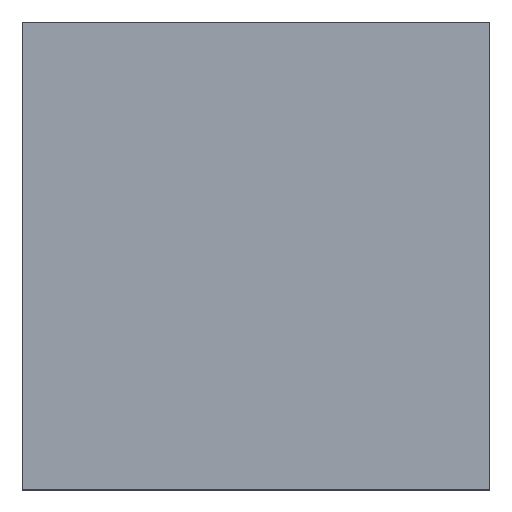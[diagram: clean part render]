
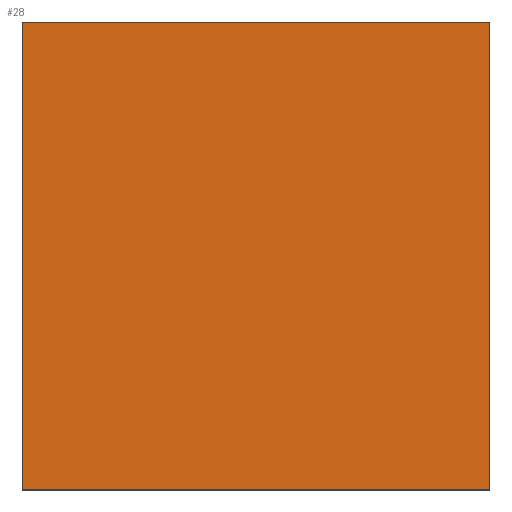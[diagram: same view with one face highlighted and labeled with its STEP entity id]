
A CAD part, top view. The second image highlights one B-rep face of the part: STEP entity #28.
In plain terms, the highlighted planar face has unit normal (0, 0, 1).
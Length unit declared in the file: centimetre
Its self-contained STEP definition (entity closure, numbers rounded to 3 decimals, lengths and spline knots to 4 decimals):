
#10 = DIRECTION ( 'NONE',  ( 0., -1., 0. ) ) ;
#19 = LINE ( 'NONE', #307, #178 ) ;
#26 = DIRECTION ( 'NONE',  ( 1., 0., 0. ) ) ;
#28 = ADVANCED_FACE ( 'NONE', ( #290 ), #429, .T. ) ;
#31 = LINE ( 'NONE', #100, #38 ) ;
#36 = EDGE_LOOP ( 'NONE', ( #286, #409, #216, #193 ) ) ;
#38 = VECTOR ( 'NONE', #208, 100. ) ;
#56 = CARTESIAN_POINT ( 'NONE',  ( 0., 1000., 1000. ) ) ;
#68 = DIRECTION ( 'NONE',  ( 0., 1., 0. ) ) ;
#93 = DIRECTION ( 'NONE',  ( 1., 0., 0. ) ) ;
#100 = CARTESIAN_POINT ( 'NONE',  ( 0., 1000., 1000. ) ) ;
#123 = EDGE_CURVE ( 'NONE', #187, #426, #19, .T. ) ;
#125 = VECTOR ( 'NONE', #26, 100. ) ;
#178 = VECTOR ( 'NONE', #10, 100. ) ;
#187 = VERTEX_POINT ( 'NONE', #56 ) ;
#189 = DIRECTION ( 'NONE',  ( 0., 0., 1. ) ) ;
#193 = ORIENTED_EDGE ( 'NONE', *, *, #328, .T. ) ;
#208 = DIRECTION ( 'NONE',  ( -1., 0., 0. ) ) ;
#216 = ORIENTED_EDGE ( 'NONE', *, *, #369, .T. ) ;
#222 = VERTEX_POINT ( 'NONE', #428 ) ;
#239 = CARTESIAN_POINT ( 'NONE',  ( 0., 0., 1000. ) ) ;
#244 = CARTESIAN_POINT ( 'NONE',  ( 1000., 0., 1000. ) ) ;
#247 = CARTESIAN_POINT ( 'NONE',  ( 0., 0., 1000. ) ) ;
#269 = LINE ( 'NONE', #403, #436 ) ;
#270 = AXIS2_PLACEMENT_3D ( 'NONE', #381, #189, #93 ) ;
#286 = ORIENTED_EDGE ( 'NONE', *, *, #123, .T. ) ;
#290 = FACE_OUTER_BOUND ( 'NONE', #36, .T. ) ;
#307 = CARTESIAN_POINT ( 'NONE',  ( 0., 1000., 1000. ) ) ;
#328 = EDGE_CURVE ( 'NONE', #222, #187, #31, .T. ) ;
#334 = VERTEX_POINT ( 'NONE', #244 ) ;
#358 = LINE ( 'NONE', #239, #125 ) ;
#369 = EDGE_CURVE ( 'NONE', #334, #222, #269, .T. ) ;
#381 = CARTESIAN_POINT ( 'NONE',  ( 0., 0., 1000. ) ) ;
#403 = CARTESIAN_POINT ( 'NONE',  ( 1000., 1000., 1000. ) ) ;
#409 = ORIENTED_EDGE ( 'NONE', *, *, #427, .T. ) ;
#426 = VERTEX_POINT ( 'NONE', #247 ) ;
#427 = EDGE_CURVE ( 'NONE', #426, #334, #358, .T. ) ;
#428 = CARTESIAN_POINT ( 'NONE',  ( 1000., 1000., 1000. ) ) ;
#429 = PLANE ( 'NONE',  #270 ) ;
#436 = VECTOR ( 'NONE', #68, 100. ) ;
